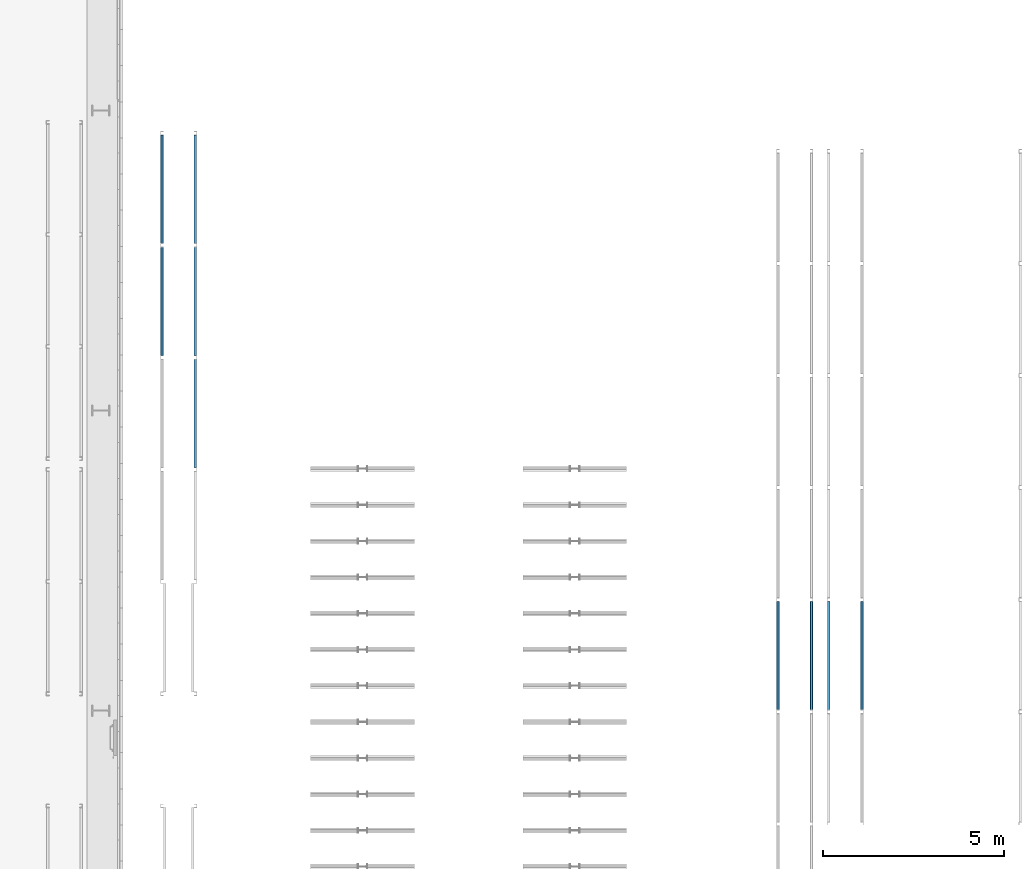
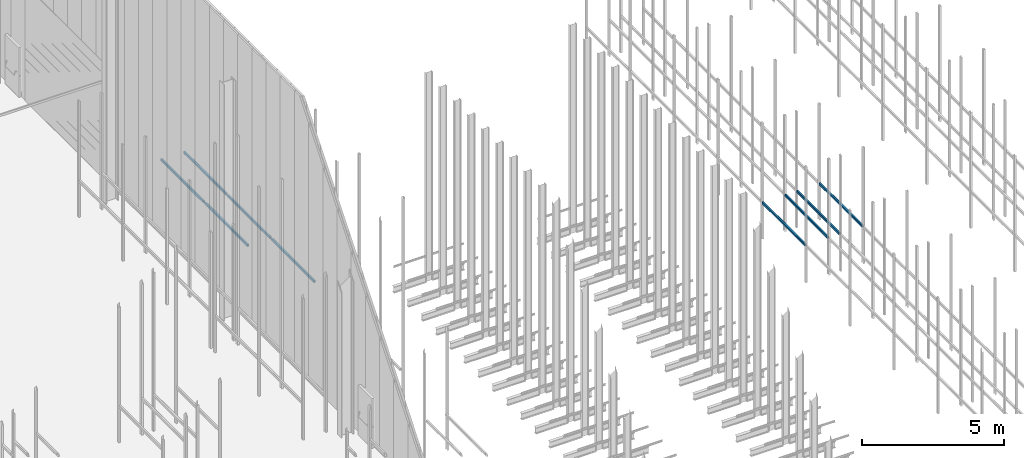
# One storey, part 186 of 302: 9 beams.
"""IFC2X3 building model written with IfcOpenShell, lengths in metres."""

from ifc_helpers import new_model, entity, si_unit, converted_unit, derived_unit, direction, frame, frame_2d, origin, place, context, subcontext, project, spatial, polyline, circle_curve, parameter, trimmed, segment, composite_curve, outline, extrude, material, type_object, element, save


model = new_model("IFC2X3")

# Units and contexts
model_context = context("Model", 3, precision=1e-05, world=origin(), true_north=direction((6.12303176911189e-17, 1.0)))
body_context = subcontext(model_context, "Body", "Model", "MODEL_VIEW")
ifc_project = project(units=[si_unit("LENGTHUNIT", "METRE"), si_unit("AREAUNIT", "SQUARE_METRE"), si_unit("VOLUMEUNIT", "CUBIC_METRE"), converted_unit("PLANEANGLEUNIT", "DEGREE", entity("IfcRatioMeasure", 0.0174532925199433), si_unit("PLANEANGLEUNIT", "RADIAN"), dimensions=[0, 0, 0, 0, 0, 0, 0]), si_unit("MASSUNIT", "GRAM", prefix="KILO"), derived_unit("MASSDENSITYUNIT", [(si_unit("MASSUNIT", "GRAM", prefix="KILO"), 1), (si_unit("LENGTHUNIT", "METRE"), -3)]), derived_unit("MOMENTOFINERTIAUNIT", [(si_unit("LENGTHUNIT", "METRE"), 4)]), si_unit("TIMEUNIT", "SECOND"), si_unit("FREQUENCYUNIT", "HERTZ"), si_unit("THERMODYNAMICTEMPERATUREUNIT", "DEGREE_CELSIUS"), derived_unit("THERMALTRANSMITTANCEUNIT", [(si_unit("MASSUNIT", "GRAM", prefix="KILO"), 1), (si_unit("THERMODYNAMICTEMPERATUREUNIT", "KELVIN"), -1), (si_unit("TIMEUNIT", "SECOND"), -3)]), derived_unit("VOLUMETRICFLOWRATEUNIT", [(si_unit("LENGTHUNIT", "METRE"), 3), (si_unit("TIMEUNIT", "SECOND"), -1)]), si_unit("ELECTRICCURRENTUNIT", "AMPERE"), si_unit("ELECTRICVOLTAGEUNIT", "VOLT"), si_unit("POWERUNIT", "WATT"), si_unit("FORCEUNIT", "NEWTON", prefix="KILO"), si_unit("ILLUMINANCEUNIT", "LUX"), si_unit("LUMINOUSFLUXUNIT", "LUMEN"), si_unit("LUMINOUSINTENSITYUNIT", "CANDELA"), derived_unit("USERDEFINED", [(si_unit("MASSUNIT", "GRAM", prefix="KILO"), -1), (si_unit("LENGTHUNIT", "METRE"), -2), (si_unit("TIMEUNIT", "SECOND"), 3), (si_unit("LUMINOUSFLUXUNIT", "LUMEN"), 1)]), derived_unit("LINEARVELOCITYUNIT", [(si_unit("LENGTHUNIT", "METRE"), 1), (si_unit("TIMEUNIT", "SECOND"), -1)]), si_unit("PRESSUREUNIT", "PASCAL"), derived_unit("USERDEFINED", [(si_unit("LENGTHUNIT", "METRE"), -2), (si_unit("MASSUNIT", "GRAM", prefix="KILO"), 1), (si_unit("TIMEUNIT", "SECOND"), -2)]), derived_unit("LINEARFORCEUNIT", [(si_unit("MASSUNIT", "GRAM", prefix="KILO"), 1), (si_unit("LENGTHUNIT", "METRE"), 1), (si_unit("TIMEUNIT", "SECOND"), -2), (si_unit("LENGTHUNIT", "METRE"), -1)]), derived_unit("PLANARFORCEUNIT", [(si_unit("MASSUNIT", "GRAM", prefix="KILO"), 1), (si_unit("LENGTHUNIT", "METRE"), 1), (si_unit("TIMEUNIT", "SECOND"), -2), (si_unit("LENGTHUNIT", "METRE"), -2)])], contexts=[model_context])

# Site, building, storey
site_placement = place(None, origin())
site = spatial("IfcSite", under=ifc_project, at=site_placement, Name="Default", CompositionType="ELEMENT")
building_placement = place(site_placement, origin())
building = spatial("IfcBuilding", under=site, at=building_placement, CompositionType="ELEMENT")
storey_placement = place(building_placement, frame((0.0, 0.0, -1.3)))
storey = spatial("IfcBuildingStorey", under=building, at=storey_placement, Name="00_EG", CompositionType="ELEMENT", Elevation=-1.3)

# Beams
ifc_material = material(Name="Metall - Baustahl S235 blau")
beam_type = type_object("IfcBeamType", Name="RHS Träger (EN 10219-2):RHS 100 x 75 x 5", PredefinedType="NOTDEFINED")
beam_1_placement = place(storey_placement, frame((-175.305111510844, 58.1488562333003, 2.885), z_axis=(0.0, 0.0, 1.0), x_axis=(0.0, 1.0, 0.0)))
element("IfcBeam", 1, at=beam_1_placement, inside=storey, type_object=beam_type, material=ifc_material, Name="RHS Träger (EN 10219-2):RHS 100 x 75 x 5", ObjectType="RHS Träger (EN 10219-2):RHS 100 x 75 x 5", context=body_context, shape_type="SweptSolid", body=[
    extrude(outline(composite_curve([segment(polyline([(-0.0399999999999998, -0.0374999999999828), (0.0400000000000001, -0.0374999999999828)]), True, "CONTINUOUS"), segment(trimmed(circle_curve(frame_2d((0.0400000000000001, -0.0274999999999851), x_axis=(0.0, 1.0)), 0.01), [parameter(180.0)], [parameter(270.0)], True, "PARAMETER"), True, "CONTINUOUS"), segment(polyline([(0.05, -0.0274999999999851), (0.05, 0.0274999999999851)]), True, "CONTINUOUS"), segment(trimmed(circle_curve(frame_2d((0.0400000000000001, 0.0274999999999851), x_axis=(0.0, 1.0)), 0.01), [parameter(270.0)], [parameter(4.07110999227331e-13)], True, "PARAMETER"), True, "CONTINUOUS"), segment(polyline([(0.0400000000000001, 0.0375000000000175), (-0.0399999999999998, 0.0375000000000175)]), True, "CONTINUOUS"), segment(trimmed(circle_curve(frame_2d((-0.0399999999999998, 0.0274999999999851), x_axis=(0.0, 1.0)), 0.01), [parameter(360.0)], [parameter(90.0000000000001)], True, "PARAMETER"), True, "CONTINUOUS"), segment(polyline([(-0.05, 0.0274999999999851), (-0.05, -0.0274999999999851)]), True, "CONTINUOUS"), segment(trimmed(circle_curve(frame_2d((-0.0399999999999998, -0.0274999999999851), x_axis=(0.0, 1.0)), 0.01), [parameter(90.0000000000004)], [parameter(180.0)], True, "PARAMETER"), True, "CONTINUOUS")], self_intersect=False), holes=[composite_curve([segment(trimmed(circle_curve(frame_2d((-0.0400000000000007, 0.0274999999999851), x_axis=(0.0, 1.0)), 0.005), [parameter(360.0)], [parameter(89.9999999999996)], True, "PARAMETER"), False, "CONTINUOUS"), segment(polyline([(-0.0400000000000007, 0.0325000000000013), (0.0399999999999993, 0.0325000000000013)]), True, "CONTINUOUS"), segment(trimmed(circle_curve(frame_2d((0.0399999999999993, 0.0274999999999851), x_axis=(0.0, 1.0)), 0.005), [parameter(270.0)], [parameter(0.0)], True, "PARAMETER"), False, "CONTINUOUS"), segment(polyline([(0.0449999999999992, 0.0274999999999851), (0.0449999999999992, -0.0274999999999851)]), True, "CONTINUOUS"), segment(trimmed(circle_curve(frame_2d((0.0399999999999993, -0.0274999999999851), x_axis=(0.0, 1.0)), 0.005), [parameter(180.0)], [parameter(269.999999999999)], True, "PARAMETER"), False, "CONTINUOUS"), segment(polyline([(0.0399999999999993, -0.0325000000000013), (-0.0400000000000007, -0.0325000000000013)]), True, "CONTINUOUS"), segment(trimmed(circle_curve(frame_2d((-0.0400000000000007, -0.0274999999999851), x_axis=(0.0, 1.0)), 0.005), [parameter(90.0000000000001)], [parameter(180.0)], True, "PARAMETER"), False, "CONTINUOUS"), segment(polyline([(-0.0450000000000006, -0.0274999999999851), (-0.0450000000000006, 0.0274999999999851)]), True, "CONTINUOUS")], self_intersect=False)]), frame((-0.000799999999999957, -0.0375000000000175, -0.0500000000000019), z_axis=(1.0, 0.0, 0.0), x_axis=(0.0, 0.0, -1.0)), (0.0, 0.0, 1.0), 3.00069999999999),
])
beam_2_placement = place(storey_placement, frame((-176.155111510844, 58.1488562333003, 2.885), z_axis=(0.0, 0.0, 1.0), x_axis=(0.0, 1.0, 0.0)))
element("IfcBeam", 2, at=beam_2_placement, inside=storey, type_object=beam_type, material=ifc_material, Name="RHS Träger (EN 10219-2):RHS 100 x 75 x 5", ObjectType="RHS Träger (EN 10219-2):RHS 100 x 75 x 5", context=body_context, shape_type="SweptSolid", body=[
    extrude(outline(composite_curve([segment(trimmed(circle_curve(frame_2d((-0.0274999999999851, -0.0400000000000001), x_axis=(1.0, 0.0)), 0.01), [parameter(180.0)], [parameter(270.0)], True, "PARAMETER"), True, "CONTINUOUS"), segment(polyline([(-0.0274999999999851, -0.0500000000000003), (0.0274999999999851, -0.0500000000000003)]), True, "CONTINUOUS"), segment(trimmed(circle_curve(frame_2d((0.0274999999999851, -0.0400000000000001), x_axis=(1.0, 0.0)), 0.01), [parameter(270.0)], [parameter(5.08888749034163e-14)], True, "PARAMETER"), True, "CONTINUOUS"), segment(polyline([(0.0375000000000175, -0.0400000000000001), (0.0375000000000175, 0.0399999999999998)]), True, "CONTINUOUS"), segment(trimmed(circle_curve(frame_2d((0.0274999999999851, 0.0399999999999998), x_axis=(1.0, 0.0)), 0.01), [parameter(360.0)], [parameter(89.9999999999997)], True, "PARAMETER"), True, "CONTINUOUS"), segment(polyline([(0.0274999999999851, 0.0499999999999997), (-0.0274999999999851, 0.0499999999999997)]), True, "CONTINUOUS"), segment(trimmed(circle_curve(frame_2d((-0.0274999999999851, 0.0399999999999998), x_axis=(1.0, 0.0)), 0.01), [parameter(90.0000000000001)], [parameter(180.0)], True, "PARAMETER"), True, "CONTINUOUS"), segment(polyline([(-0.0374999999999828, 0.0399999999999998), (-0.0374999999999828, -0.0400000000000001)]), True, "CONTINUOUS")], self_intersect=False), holes=[composite_curve([segment(polyline([(0.0274999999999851, -0.0450000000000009), (-0.0274999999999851, -0.0450000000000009)]), True, "CONTINUOUS"), segment(trimmed(circle_curve(frame_2d((-0.0274999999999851, -0.0400000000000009), x_axis=(1.0, 0.0)), 0.005), [parameter(180.0)], [parameter(270.0)], True, "PARAMETER"), False, "CONTINUOUS"), segment(polyline([(-0.0325000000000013, -0.0400000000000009), (-0.0325000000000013, 0.039999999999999)]), True, "CONTINUOUS"), segment(trimmed(circle_curve(frame_2d((-0.0274999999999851, 0.039999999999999), x_axis=(1.0, 0.0)), 0.005), [parameter(90.0000000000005)], [parameter(180.0)], True, "PARAMETER"), False, "CONTINUOUS"), segment(polyline([(-0.0274999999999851, 0.044999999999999), (0.0274999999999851, 0.044999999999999)]), True, "CONTINUOUS"), segment(trimmed(circle_curve(frame_2d((0.0274999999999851, 0.039999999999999), x_axis=(1.0, 0.0)), 0.005), [parameter(0.0)], [parameter(90.0000000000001)], True, "PARAMETER"), False, "CONTINUOUS"), segment(polyline([(0.0325000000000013, 0.039999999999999), (0.0325000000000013, -0.0400000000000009)]), True, "CONTINUOUS"), segment(trimmed(circle_curve(frame_2d((0.0274999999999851, -0.0400000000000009), x_axis=(1.0, 0.0)), 0.005), [parameter(270.0)], [parameter(4.07110999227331e-13)], True, "PARAMETER"), False, "CONTINUOUS")], self_intersect=False)]), frame((-0.000799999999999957, 0.0375000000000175, -0.0500000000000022), z_axis=(1.0, 0.0, 0.0), x_axis=(0.0, -1.0, 0.0)), (0.0, 0.0, 1.0), 3.00069999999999),
])
beam_3_placement = place(storey_placement, frame((-175.305111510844, 55.0480889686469, 2.885), z_axis=(0.0, 0.0, 1.0), x_axis=(0.0, 1.0, 0.0)))
element("IfcBeam", 3, at=beam_3_placement, inside=storey, type_object=beam_type, material=ifc_material, Name="RHS Träger (EN 10219-2):RHS 100 x 75 x 5", ObjectType="RHS Träger (EN 10219-2):RHS 100 x 75 x 5", context=body_context, shape_type="SweptSolid", body=[
    extrude(outline(composite_curve([segment(polyline([(-0.0399999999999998, -0.0374999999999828), (0.0400000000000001, -0.0374999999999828)]), True, "CONTINUOUS"), segment(trimmed(circle_curve(frame_2d((0.0399999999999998, -0.0274999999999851), x_axis=(0.0, 1.0)), 0.01), [parameter(180.0)], [parameter(270.0)], True, "PARAMETER"), True, "CONTINUOUS"), segment(polyline([(0.05, -0.0274999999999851), (0.05, 0.0274999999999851)]), True, "CONTINUOUS"), segment(trimmed(circle_curve(frame_2d((0.0399999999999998, 0.0274999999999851), x_axis=(0.0, 1.0)), 0.01), [parameter(270.0)], [parameter(4.07110999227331e-13)], True, "PARAMETER"), True, "CONTINUOUS"), segment(polyline([(0.0400000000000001, 0.0375000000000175), (-0.0399999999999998, 0.0375000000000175)]), True, "CONTINUOUS"), segment(trimmed(circle_curve(frame_2d((-0.0400000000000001, 0.0274999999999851), x_axis=(0.0, 1.0)), 0.01), [parameter(360.0)], [parameter(90.0000000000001)], True, "PARAMETER"), True, "CONTINUOUS"), segment(polyline([(-0.05, 0.0274999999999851), (-0.05, -0.0274999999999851)]), True, "CONTINUOUS"), segment(trimmed(circle_curve(frame_2d((-0.0400000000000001, -0.0274999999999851), x_axis=(0.0, 1.0)), 0.01), [parameter(90.0000000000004)], [parameter(180.0)], True, "PARAMETER"), True, "CONTINUOUS")], self_intersect=False), holes=[composite_curve([segment(trimmed(circle_curve(frame_2d((-0.0400000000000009, 0.0274999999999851), x_axis=(0.0, 1.0)), 0.005), [parameter(360.0)], [parameter(89.9999999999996)], True, "PARAMETER"), False, "CONTINUOUS"), segment(polyline([(-0.0400000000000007, 0.0325000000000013), (0.0399999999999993, 0.0325000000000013)]), True, "CONTINUOUS"), segment(trimmed(circle_curve(frame_2d((0.039999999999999, 0.0274999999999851), x_axis=(0.0, 1.0)), 0.005), [parameter(270.0)], [parameter(0.0)], True, "PARAMETER"), False, "CONTINUOUS"), segment(polyline([(0.0449999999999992, 0.0274999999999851), (0.0449999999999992, -0.0274999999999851)]), True, "CONTINUOUS"), segment(trimmed(circle_curve(frame_2d((0.039999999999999, -0.0274999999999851), x_axis=(0.0, 1.0)), 0.005), [parameter(180.0)], [parameter(269.999999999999)], True, "PARAMETER"), False, "CONTINUOUS"), segment(polyline([(0.0399999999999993, -0.0325000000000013), (-0.0400000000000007, -0.0325000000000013)]), True, "CONTINUOUS"), segment(trimmed(circle_curve(frame_2d((-0.0400000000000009, -0.0274999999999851), x_axis=(0.0, 1.0)), 0.005), [parameter(90.0000000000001)], [parameter(180.0)], True, "PARAMETER"), False, "CONTINUOUS"), segment(polyline([(-0.0450000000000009, -0.0274999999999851), (-0.0450000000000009, 0.0274999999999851)]), True, "CONTINUOUS")], self_intersect=False)]), frame((9.99999999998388e-05, -0.0375000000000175, -0.0500000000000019), z_axis=(1.0, 0.0, 0.0), x_axis=(0.0, 0.0, -1.0)), (0.0, 0.0, 1.0), 2.99979999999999),
])
beam_4_placement = place(storey_placement, frame((-159.118311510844, 48.3480889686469, 2.885), z_axis=(0.0, 0.0, 1.0), x_axis=(0.0, 1.0, 0.0)))
element("IfcBeam", 4, at=beam_4_placement, inside=storey, type_object=beam_type, material=ifc_material, Name="RHS Träger (EN 10219-2):RHS 100 x 75 x 5", ObjectType="RHS Träger (EN 10219-2):RHS 100 x 75 x 5", context=body_context, shape_type="SweptSolid", body=[
    extrude(outline(composite_curve([segment(trimmed(circle_curve(frame_2d((-0.0274999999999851, -0.0400000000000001), x_axis=(1.0, 0.0)), 0.01), [parameter(180.0)], [parameter(270.0)], True, "PARAMETER"), True, "CONTINUOUS"), segment(polyline([(-0.0274999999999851, -0.05), (0.0274999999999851, -0.05)]), True, "CONTINUOUS"), segment(trimmed(circle_curve(frame_2d((0.0274999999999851, -0.0400000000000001), x_axis=(1.0, 0.0)), 0.01), [parameter(270.0)], [parameter(5.08888749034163e-14)], True, "PARAMETER"), True, "CONTINUOUS"), segment(polyline([(0.0375000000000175, -0.0399999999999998), (0.0375000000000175, 0.0400000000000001)]), True, "CONTINUOUS"), segment(trimmed(circle_curve(frame_2d((0.0274999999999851, 0.0399999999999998), x_axis=(1.0, 0.0)), 0.01), [parameter(360.0)], [parameter(89.9999999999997)], True, "PARAMETER"), True, "CONTINUOUS"), segment(polyline([(0.0274999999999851, 0.05), (-0.0274999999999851, 0.05)]), True, "CONTINUOUS"), segment(trimmed(circle_curve(frame_2d((-0.0274999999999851, 0.0399999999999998), x_axis=(1.0, 0.0)), 0.01), [parameter(90.0000000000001)], [parameter(180.0)], True, "PARAMETER"), True, "CONTINUOUS"), segment(polyline([(-0.0374999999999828, 0.0400000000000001), (-0.0374999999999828, -0.0399999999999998)]), True, "CONTINUOUS")], self_intersect=False), holes=[composite_curve([segment(polyline([(0.0274999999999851, -0.0450000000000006), (-0.0274999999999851, -0.0450000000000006)]), True, "CONTINUOUS"), segment(trimmed(circle_curve(frame_2d((-0.0274999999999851, -0.0400000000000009), x_axis=(1.0, 0.0)), 0.005), [parameter(180.0)], [parameter(270.0)], True, "PARAMETER"), False, "CONTINUOUS"), segment(polyline([(-0.0325000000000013, -0.0400000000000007), (-0.0325000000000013, 0.0399999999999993)]), True, "CONTINUOUS"), segment(trimmed(circle_curve(frame_2d((-0.0274999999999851, 0.039999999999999), x_axis=(1.0, 0.0)), 0.005), [parameter(90.0000000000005)], [parameter(180.0)], True, "PARAMETER"), False, "CONTINUOUS"), segment(polyline([(-0.0274999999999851, 0.0449999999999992), (0.0274999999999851, 0.0449999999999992)]), True, "CONTINUOUS"), segment(trimmed(circle_curve(frame_2d((0.0274999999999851, 0.039999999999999), x_axis=(1.0, 0.0)), 0.005), [parameter(0.0)], [parameter(90.0000000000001)], True, "PARAMETER"), False, "CONTINUOUS"), segment(polyline([(0.0325000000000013, 0.0399999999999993), (0.0325000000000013, -0.0400000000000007)]), True, "CONTINUOUS"), segment(trimmed(circle_curve(frame_2d((0.0274999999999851, -0.0400000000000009), x_axis=(1.0, 0.0)), 0.005), [parameter(270.0)], [parameter(4.07110999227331e-13)], True, "PARAMETER"), False, "CONTINUOUS")], self_intersect=False)]), frame((9.99999999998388e-05, 0.0375000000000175, -0.0500000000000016), z_axis=(1.0, 0.0, 0.0), x_axis=(0.0, -1.0, 0.0)), (0.0, 0.0, 1.0), 2.99979999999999),
])
beam_5_placement = place(storey_placement, frame((-158.268311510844, 48.3480889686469, 2.885), z_axis=(0.0, 0.0, 1.0), x_axis=(0.0, 1.0, 0.0)))
element("IfcBeam", 5, at=beam_5_placement, inside=storey, type_object=beam_type, material=ifc_material, Name="RHS Träger (EN 10219-2):RHS 100 x 75 x 5", ObjectType="RHS Träger (EN 10219-2):RHS 100 x 75 x 5", context=body_context, shape_type="SweptSolid", body=[
    extrude(outline(composite_curve([segment(polyline([(-0.0399999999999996, -0.0375000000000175), (0.0400000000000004, -0.0375000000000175)]), True, "CONTINUOUS"), segment(trimmed(circle_curve(frame_2d((0.0400000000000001, -0.0275000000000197), x_axis=(0.0, 1.0)), 0.01), [parameter(180.0)], [parameter(270.0)], True, "PARAMETER"), True, "CONTINUOUS"), segment(polyline([(0.0500000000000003, -0.0275000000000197), (0.0500000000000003, 0.0274999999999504)]), True, "CONTINUOUS"), segment(trimmed(circle_curve(frame_2d((0.0400000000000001, 0.0274999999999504), x_axis=(0.0, 1.0)), 0.01), [parameter(270.0)], [parameter(4.07110999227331e-13)], True, "PARAMETER"), True, "CONTINUOUS"), segment(polyline([(0.0400000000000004, 0.0374999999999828), (-0.0399999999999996, 0.0374999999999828)]), True, "CONTINUOUS"), segment(trimmed(circle_curve(frame_2d((-0.0399999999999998, 0.0274999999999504), x_axis=(0.0, 1.0)), 0.01), [parameter(360.0)], [parameter(90.0000000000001)], True, "PARAMETER"), True, "CONTINUOUS"), segment(polyline([(-0.0499999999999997, 0.0274999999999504), (-0.0499999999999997, -0.0275000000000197)]), True, "CONTINUOUS"), segment(trimmed(circle_curve(frame_2d((-0.0399999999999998, -0.0275000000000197), x_axis=(0.0, 1.0)), 0.01), [parameter(90.0000000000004)], [parameter(180.0)], True, "PARAMETER"), True, "CONTINUOUS")], self_intersect=False), holes=[composite_curve([segment(trimmed(circle_curve(frame_2d((-0.0400000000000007, 0.0274999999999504), x_axis=(0.0, 1.0)), 0.005), [parameter(360.0)], [parameter(89.9999999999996)], True, "PARAMETER"), False, "CONTINUOUS"), segment(polyline([(-0.0400000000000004, 0.0324999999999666), (0.0399999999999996, 0.0324999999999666)]), True, "CONTINUOUS"), segment(trimmed(circle_curve(frame_2d((0.0399999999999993, 0.0274999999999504), x_axis=(0.0, 1.0)), 0.005), [parameter(270.0)], [parameter(0.0)], True, "PARAMETER"), False, "CONTINUOUS"), segment(polyline([(0.0449999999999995, 0.0274999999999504), (0.0449999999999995, -0.0275000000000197)]), True, "CONTINUOUS"), segment(trimmed(circle_curve(frame_2d((0.0399999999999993, -0.0275000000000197), x_axis=(0.0, 1.0)), 0.005), [parameter(180.0)], [parameter(269.999999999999)], True, "PARAMETER"), False, "CONTINUOUS"), segment(polyline([(0.0399999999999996, -0.0325000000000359), (-0.0400000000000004, -0.0325000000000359)]), True, "CONTINUOUS"), segment(trimmed(circle_curve(frame_2d((-0.0400000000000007, -0.0275000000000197), x_axis=(0.0, 1.0)), 0.005), [parameter(90.0000000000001)], [parameter(180.0)], True, "PARAMETER"), False, "CONTINUOUS"), segment(polyline([(-0.0450000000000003, -0.0275000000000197), (-0.0450000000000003, 0.0274999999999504)]), True, "CONTINUOUS")], self_intersect=False)]), frame((9.99999999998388e-05, -0.0374999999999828, -0.0500000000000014), z_axis=(1.0, 0.0, 0.0), x_axis=(0.0, 0.0, -1.0)), (0.0, 0.0, 1.0), 2.99979999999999),
])
beam_6_placement = place(storey_placement, frame((-157.718311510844, 48.3480889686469, 2.885), z_axis=(0.0, 0.0, 1.0), x_axis=(0.0, 1.0, 0.0)))
element("IfcBeam", 6, at=beam_6_placement, inside=storey, type_object=beam_type, material=ifc_material, Name="RHS Träger (EN 10219-2):RHS 100 x 75 x 5", ObjectType="RHS Träger (EN 10219-2):RHS 100 x 75 x 5", context=body_context, shape_type="SweptSolid", body=[
    extrude(outline(composite_curve([segment(trimmed(circle_curve(frame_2d((-0.0274999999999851, -0.0400000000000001), x_axis=(1.0, 0.0)), 0.01), [parameter(180.0)], [parameter(270.0)], True, "PARAMETER"), True, "CONTINUOUS"), segment(polyline([(-0.0274999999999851, -0.05), (0.0274999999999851, -0.05)]), True, "CONTINUOUS"), segment(trimmed(circle_curve(frame_2d((0.0274999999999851, -0.0400000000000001), x_axis=(1.0, 0.0)), 0.01), [parameter(270.0)], [parameter(5.08888749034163e-14)], True, "PARAMETER"), True, "CONTINUOUS"), segment(polyline([(0.0375000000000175, -0.0399999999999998), (0.0375000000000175, 0.0400000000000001)]), True, "CONTINUOUS"), segment(trimmed(circle_curve(frame_2d((0.0274999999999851, 0.0399999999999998), x_axis=(1.0, 0.0)), 0.01), [parameter(360.0)], [parameter(89.9999999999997)], True, "PARAMETER"), True, "CONTINUOUS"), segment(polyline([(0.0274999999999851, 0.05), (-0.0274999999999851, 0.05)]), True, "CONTINUOUS"), segment(trimmed(circle_curve(frame_2d((-0.0274999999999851, 0.0399999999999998), x_axis=(1.0, 0.0)), 0.01), [parameter(90.0000000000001)], [parameter(180.0)], True, "PARAMETER"), True, "CONTINUOUS"), segment(polyline([(-0.0374999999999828, 0.0400000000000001), (-0.0374999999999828, -0.0399999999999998)]), True, "CONTINUOUS")], self_intersect=False), holes=[composite_curve([segment(polyline([(0.0274999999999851, -0.0450000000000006), (-0.0274999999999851, -0.0450000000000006)]), True, "CONTINUOUS"), segment(trimmed(circle_curve(frame_2d((-0.0274999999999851, -0.0400000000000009), x_axis=(1.0, 0.0)), 0.005), [parameter(180.0)], [parameter(270.0)], True, "PARAMETER"), False, "CONTINUOUS"), segment(polyline([(-0.0325000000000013, -0.0400000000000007), (-0.0325000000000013, 0.0399999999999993)]), True, "CONTINUOUS"), segment(trimmed(circle_curve(frame_2d((-0.0274999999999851, 0.039999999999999), x_axis=(1.0, 0.0)), 0.005), [parameter(90.0000000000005)], [parameter(180.0)], True, "PARAMETER"), False, "CONTINUOUS"), segment(polyline([(-0.0274999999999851, 0.0449999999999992), (0.0274999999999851, 0.0449999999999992)]), True, "CONTINUOUS"), segment(trimmed(circle_curve(frame_2d((0.0274999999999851, 0.039999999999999), x_axis=(1.0, 0.0)), 0.005), [parameter(0.0)], [parameter(90.0000000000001)], True, "PARAMETER"), False, "CONTINUOUS"), segment(polyline([(0.0325000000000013, 0.0399999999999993), (0.0325000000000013, -0.0400000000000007)]), True, "CONTINUOUS"), segment(trimmed(circle_curve(frame_2d((0.0274999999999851, -0.0400000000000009), x_axis=(1.0, 0.0)), 0.005), [parameter(270.0)], [parameter(4.07110999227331e-13)], True, "PARAMETER"), False, "CONTINUOUS")], self_intersect=False)]), frame((9.99999999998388e-05, 0.0375000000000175, -0.0500000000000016), z_axis=(1.0, 0.0, 0.0), x_axis=(0.0, -1.0, 0.0)), (0.0, 0.0, 1.0), 2.99979999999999),
])
beam_7_placement = place(storey_placement, frame((-156.868311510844, 48.3480889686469, 2.885), z_axis=(0.0, 0.0, 1.0), x_axis=(0.0, 1.0, 0.0)))
element("IfcBeam", 7, at=beam_7_placement, inside=storey, type_object=beam_type, material=ifc_material, Name="RHS Träger (EN 10219-2):RHS 100 x 75 x 5", ObjectType="RHS Träger (EN 10219-2):RHS 100 x 75 x 5", context=body_context, shape_type="SweptSolid", body=[
    extrude(outline(composite_curve([segment(polyline([(-0.0399999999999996, -0.0374999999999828), (0.0400000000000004, -0.0374999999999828)]), True, "CONTINUOUS"), segment(trimmed(circle_curve(frame_2d((0.0400000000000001, -0.0274999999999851), x_axis=(0.0, 1.0)), 0.01), [parameter(180.0)], [parameter(270.0)], True, "PARAMETER"), True, "CONTINUOUS"), segment(polyline([(0.0500000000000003, -0.0274999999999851), (0.0500000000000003, 0.0274999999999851)]), True, "CONTINUOUS"), segment(trimmed(circle_curve(frame_2d((0.0400000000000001, 0.0274999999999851), x_axis=(0.0, 1.0)), 0.01), [parameter(270.0)], [parameter(4.07110999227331e-13)], True, "PARAMETER"), True, "CONTINUOUS"), segment(polyline([(0.0400000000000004, 0.0375000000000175), (-0.0399999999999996, 0.0375000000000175)]), True, "CONTINUOUS"), segment(trimmed(circle_curve(frame_2d((-0.0399999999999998, 0.0274999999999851), x_axis=(0.0, 1.0)), 0.01), [parameter(360.0)], [parameter(90.0000000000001)], True, "PARAMETER"), True, "CONTINUOUS"), segment(polyline([(-0.0499999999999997, 0.0274999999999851), (-0.0499999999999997, -0.0274999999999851)]), True, "CONTINUOUS"), segment(trimmed(circle_curve(frame_2d((-0.0399999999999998, -0.0274999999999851), x_axis=(0.0, 1.0)), 0.01), [parameter(90.0000000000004)], [parameter(180.0)], True, "PARAMETER"), True, "CONTINUOUS")], self_intersect=False), holes=[composite_curve([segment(trimmed(circle_curve(frame_2d((-0.0400000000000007, 0.0274999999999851), x_axis=(0.0, 1.0)), 0.005), [parameter(360.0)], [parameter(89.9999999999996)], True, "PARAMETER"), False, "CONTINUOUS"), segment(polyline([(-0.0400000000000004, 0.0325000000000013), (0.0399999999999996, 0.0325000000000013)]), True, "CONTINUOUS"), segment(trimmed(circle_curve(frame_2d((0.0399999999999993, 0.0274999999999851), x_axis=(0.0, 1.0)), 0.005), [parameter(270.0)], [parameter(0.0)], True, "PARAMETER"), False, "CONTINUOUS"), segment(polyline([(0.0449999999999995, 0.0274999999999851), (0.0449999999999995, -0.0274999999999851)]), True, "CONTINUOUS"), segment(trimmed(circle_curve(frame_2d((0.0399999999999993, -0.0274999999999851), x_axis=(0.0, 1.0)), 0.005), [parameter(180.0)], [parameter(269.999999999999)], True, "PARAMETER"), False, "CONTINUOUS"), segment(polyline([(0.0399999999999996, -0.0325000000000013), (-0.0400000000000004, -0.0325000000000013)]), True, "CONTINUOUS"), segment(trimmed(circle_curve(frame_2d((-0.0400000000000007, -0.0274999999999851), x_axis=(0.0, 1.0)), 0.005), [parameter(90.0000000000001)], [parameter(180.0)], True, "PARAMETER"), False, "CONTINUOUS"), segment(polyline([(-0.0450000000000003, -0.0274999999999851), (-0.0450000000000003, 0.0274999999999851)]), True, "CONTINUOUS")], self_intersect=False)]), frame((9.99999999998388e-05, -0.0375000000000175, -0.0500000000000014), z_axis=(1.0, 0.0, 0.0), x_axis=(0.0, 0.0, -1.0)), (0.0, 0.0, 1.0), 2.99979999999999),
])
beam_8_placement = place(storey_placement, frame((-175.305111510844, 61.2488562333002, 2.885), z_axis=(0.0, 0.0, 1.0), x_axis=(0.0, 1.0, 0.0)))
element("IfcBeam", 8, at=beam_8_placement, inside=storey, type_object=beam_type, material=ifc_material, Name="RHS Träger (EN 10219-2):RHS 100 x 75 x 5", ObjectType="RHS Träger (EN 10219-2):RHS 100 x 75 x 5", context=body_context, shape_type="SweptSolid", body=[
    extrude(outline(composite_curve([segment(polyline([(-0.0399999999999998, -0.0374999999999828), (0.0400000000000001, -0.0374999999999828)]), True, "CONTINUOUS"), segment(trimmed(circle_curve(frame_2d((0.0399999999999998, -0.0274999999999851), x_axis=(0.0, 1.0)), 0.01), [parameter(180.0)], [parameter(270.0)], True, "PARAMETER"), True, "CONTINUOUS"), segment(polyline([(0.05, -0.0274999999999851), (0.05, 0.0274999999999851)]), True, "CONTINUOUS"), segment(trimmed(circle_curve(frame_2d((0.0399999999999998, 0.0274999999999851), x_axis=(0.0, 1.0)), 0.01), [parameter(270.0)], [parameter(4.07110999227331e-13)], True, "PARAMETER"), True, "CONTINUOUS"), segment(polyline([(0.0400000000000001, 0.0375000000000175), (-0.0399999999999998, 0.0375000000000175)]), True, "CONTINUOUS"), segment(trimmed(circle_curve(frame_2d((-0.0400000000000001, 0.0274999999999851), x_axis=(0.0, 1.0)), 0.01), [parameter(360.0)], [parameter(90.0000000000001)], True, "PARAMETER"), True, "CONTINUOUS"), segment(polyline([(-0.05, 0.0274999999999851), (-0.05, -0.0274999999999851)]), True, "CONTINUOUS"), segment(trimmed(circle_curve(frame_2d((-0.0400000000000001, -0.0274999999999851), x_axis=(0.0, 1.0)), 0.01), [parameter(90.0000000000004)], [parameter(180.0)], True, "PARAMETER"), True, "CONTINUOUS")], self_intersect=False), holes=[composite_curve([segment(trimmed(circle_curve(frame_2d((-0.0400000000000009, 0.0274999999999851), x_axis=(0.0, 1.0)), 0.005), [parameter(360.0)], [parameter(89.9999999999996)], True, "PARAMETER"), False, "CONTINUOUS"), segment(polyline([(-0.0400000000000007, 0.0325000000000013), (0.0399999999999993, 0.0325000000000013)]), True, "CONTINUOUS"), segment(trimmed(circle_curve(frame_2d((0.039999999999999, 0.0274999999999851), x_axis=(0.0, 1.0)), 0.005), [parameter(270.0)], [parameter(0.0)], True, "PARAMETER"), False, "CONTINUOUS"), segment(polyline([(0.0449999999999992, 0.0274999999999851), (0.0449999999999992, -0.0274999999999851)]), True, "CONTINUOUS"), segment(trimmed(circle_curve(frame_2d((0.039999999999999, -0.0274999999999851), x_axis=(0.0, 1.0)), 0.005), [parameter(180.0)], [parameter(269.999999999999)], True, "PARAMETER"), False, "CONTINUOUS"), segment(polyline([(0.0399999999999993, -0.0325000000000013), (-0.0400000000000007, -0.0325000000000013)]), True, "CONTINUOUS"), segment(trimmed(circle_curve(frame_2d((-0.0400000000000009, -0.0274999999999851), x_axis=(0.0, 1.0)), 0.005), [parameter(90.0000000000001)], [parameter(180.0)], True, "PARAMETER"), False, "CONTINUOUS"), segment(polyline([(-0.0450000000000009, -0.0274999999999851), (-0.0450000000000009, 0.0274999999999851)]), True, "CONTINUOUS")], self_intersect=False)]), frame((0.000100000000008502, -0.0375000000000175, -0.0500000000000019), z_axis=(1.0, 0.0, 0.0), x_axis=(0.0, 0.0, -1.0)), (0.0, 0.0, 1.0), 2.99979999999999),
])
beam_9_placement = place(storey_placement, frame((-176.155111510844, 61.2488562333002, 2.885), z_axis=(0.0, 0.0, 1.0), x_axis=(0.0, 1.0, 0.0)))
element("IfcBeam", 9, at=beam_9_placement, inside=storey, type_object=beam_type, material=ifc_material, Name="RHS Träger (EN 10219-2):RHS 100 x 75 x 5", ObjectType="RHS Träger (EN 10219-2):RHS 100 x 75 x 5", context=body_context, shape_type="SweptSolid", body=[
    extrude(outline(composite_curve([segment(trimmed(circle_curve(frame_2d((-0.0274999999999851, -0.0400000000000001), x_axis=(1.0, 0.0)), 0.01), [parameter(180.0)], [parameter(270.0)], True, "PARAMETER"), True, "CONTINUOUS"), segment(polyline([(-0.0274999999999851, -0.05), (0.0274999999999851, -0.05)]), True, "CONTINUOUS"), segment(trimmed(circle_curve(frame_2d((0.0274999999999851, -0.0400000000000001), x_axis=(1.0, 0.0)), 0.01), [parameter(270.0)], [parameter(5.08888749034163e-14)], True, "PARAMETER"), True, "CONTINUOUS"), segment(polyline([(0.0375000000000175, -0.0399999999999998), (0.0375000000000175, 0.0400000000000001)]), True, "CONTINUOUS"), segment(trimmed(circle_curve(frame_2d((0.0274999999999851, 0.0399999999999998), x_axis=(1.0, 0.0)), 0.01), [parameter(360.0)], [parameter(89.9999999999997)], True, "PARAMETER"), True, "CONTINUOUS"), segment(polyline([(0.0274999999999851, 0.05), (-0.0274999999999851, 0.05)]), True, "CONTINUOUS"), segment(trimmed(circle_curve(frame_2d((-0.0274999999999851, 0.0399999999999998), x_axis=(1.0, 0.0)), 0.01), [parameter(90.0000000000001)], [parameter(180.0)], True, "PARAMETER"), True, "CONTINUOUS"), segment(polyline([(-0.0374999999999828, 0.0400000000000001), (-0.0374999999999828, -0.0399999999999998)]), True, "CONTINUOUS")], self_intersect=False), holes=[composite_curve([segment(polyline([(0.0274999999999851, -0.0450000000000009), (-0.0274999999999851, -0.0450000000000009)]), True, "CONTINUOUS"), segment(trimmed(circle_curve(frame_2d((-0.0274999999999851, -0.0400000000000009), x_axis=(1.0, 0.0)), 0.005), [parameter(180.0)], [parameter(270.0)], True, "PARAMETER"), False, "CONTINUOUS"), segment(polyline([(-0.0325000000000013, -0.0400000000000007), (-0.0325000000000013, 0.0399999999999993)]), True, "CONTINUOUS"), segment(trimmed(circle_curve(frame_2d((-0.0274999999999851, 0.039999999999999), x_axis=(1.0, 0.0)), 0.005), [parameter(90.0000000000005)], [parameter(180.0)], True, "PARAMETER"), False, "CONTINUOUS"), segment(polyline([(-0.0274999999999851, 0.0449999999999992), (0.0274999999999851, 0.0449999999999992)]), True, "CONTINUOUS"), segment(trimmed(circle_curve(frame_2d((0.0274999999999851, 0.039999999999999), x_axis=(1.0, 0.0)), 0.005), [parameter(0.0)], [parameter(90.0000000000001)], True, "PARAMETER"), False, "CONTINUOUS"), segment(polyline([(0.0325000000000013, 0.0399999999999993), (0.0325000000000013, -0.0400000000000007)]), True, "CONTINUOUS"), segment(trimmed(circle_curve(frame_2d((0.0274999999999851, -0.0400000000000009), x_axis=(1.0, 0.0)), 0.005), [parameter(270.0)], [parameter(4.07110999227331e-13)], True, "PARAMETER"), False, "CONTINUOUS")], self_intersect=False)]), frame((0.000100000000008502, 0.0375000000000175, -0.0500000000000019), z_axis=(1.0, 0.0, 0.0), x_axis=(0.0, -1.0, 0.0)), (0.0, 0.0, 1.0), 2.99979999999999),
])

save(model, "model.ifc")
